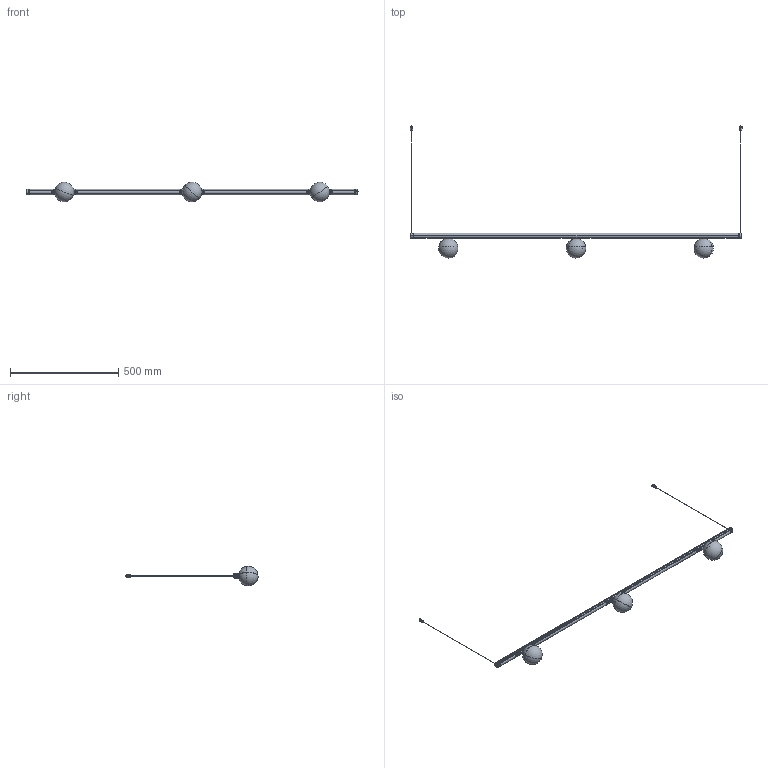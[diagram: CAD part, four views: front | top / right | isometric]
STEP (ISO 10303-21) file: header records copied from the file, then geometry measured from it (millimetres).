
FILE_DESCRIPTION (( 'STEP AP214' ), '1' );
FILE_NAME ('BALO 15.STEP', '2024-05-31T08:53:01', ( '' ), ( '' ), 'SwSTEP 2.0', 'SolidWorks 2024', '' );
FILE_SCHEMA (( 'AUTOMOTIVE_DESIGN' ));
Length unit declared in the file: millimetre
Products named in the file (1): BALO 15
Bounding box: 1533.49 x 610.98 x 89.93 mm (x, y, z)
Volume: 476734.9 mm3; surface area: 531029.6 mm2
Topology: 8 solids, 26 shells, 3029 faces, 8047 edges, 4998 vertices
Faces by surface type: plane 1251, cylinder 1059, bspline 284, torus 236, sphere 122, cone 77
Entity records: 115756 total; most frequent: CARTESIAN_POINT 42517, ORIENTED_EDGE 15862, DIRECTION 14888, EDGE_CURVE 7931, AXIS2_PLACEMENT_3D 5325, VERTEX_POINT 4962, VECTOR 4238, LINE 4238
